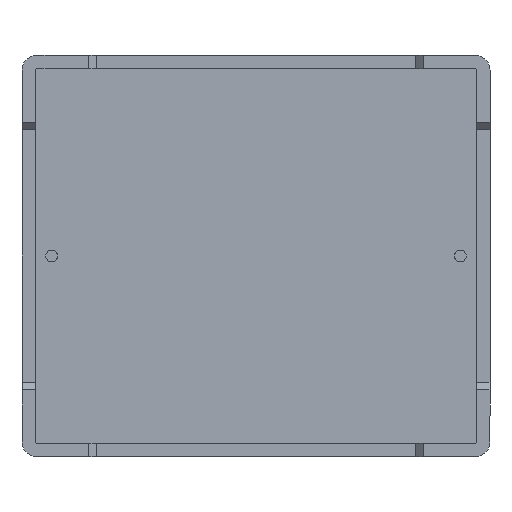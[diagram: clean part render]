
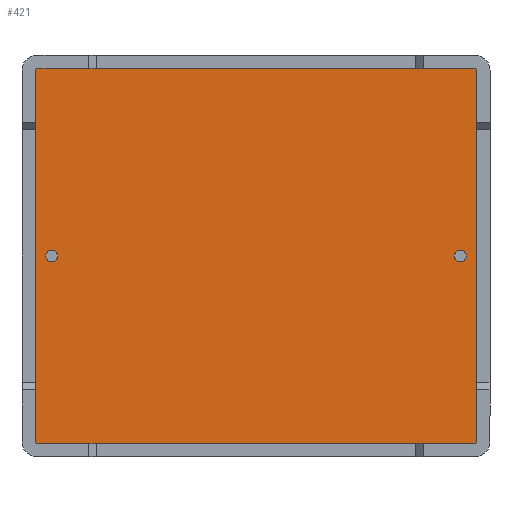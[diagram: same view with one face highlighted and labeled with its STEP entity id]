
A CAD part, front view. The second image highlights one B-rep face of the part: STEP entity #421.
In plain terms, the highlighted planar face has unit normal (0, -1, 0).
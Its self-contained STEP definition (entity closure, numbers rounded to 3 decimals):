
#36 = FACE_OUTER_BOUND ( 'NONE', #2398, .T. ) ;
#50 = FACE_BOUND ( 'NONE', #2296, .T. ) ;
#74 = DIRECTION ( 'NONE',  ( 0., 0., 1. ) ) ;
#128 = EDGE_CURVE ( 'NONE', #3528, #3306, #1279, .T. ) ;
#138 = CARTESIAN_POINT ( 'NONE',  ( 14.85, 1., -12.6 ) ) ;
#143 = FACE_BOUND ( 'NONE', #2304, .T. ) ;
#156 = EDGE_CURVE ( 'NONE', #520, #3269, #1155, .T. ) ;
#187 = EDGE_CURVE ( 'NONE', #1858, #3747, #1050, .T. ) ;
#200 = CIRCLE ( 'NONE', #3951, 0.4 ) ;
#218 = DIRECTION ( 'NONE',  ( 0., 0., -1. ) ) ;
#224 = EDGE_CURVE ( 'NONE', #2219, #3319, #891, .T. ) ;
#237 = EDGE_CURVE ( 'NONE', #1211, #1967, #811, .T. ) ;
#238 = EDGE_CURVE ( 'NONE', #1896, #1774, #945, .T. ) ;
#248 = EDGE_CURVE ( 'NONE', #3319, #1858, #790, .T. ) ;
#255 = EDGE_CURVE ( 'NONE', #3747, #520, #776, .T. ) ;
#266 = EDGE_CURVE ( 'NONE', #3269, #3528, #723, .T. ) ;
#274 = EDGE_CURVE ( 'NONE', #3306, #2219, #663, .T. ) ;
#336 = CARTESIAN_POINT ( 'NONE',  ( 14.75, 1., 12.6 ) ) ;
#421 = ADVANCED_FACE ( 'NONE', ( #143, #50, #36 ), #733, .T. ) ;
#520 = VERTEX_POINT ( 'NONE', #1409 ) ;
#663 = CIRCLE ( 'NONE', #3968, 0.1 ) ;
#684 = DIRECTION ( 'NONE',  ( 0., 0., -1. ) ) ;
#687 = DIRECTION ( 'NONE',  ( 0., -1., 0. ) ) ;
#723 = CIRCLE ( 'NONE', #3784, 0.1 ) ;
#733 = PLANE ( 'NONE',  #1993 ) ;
#745 = DIRECTION ( 'NONE',  ( 0., -1., 0. ) ) ;
#768 = CARTESIAN_POINT ( 'NONE',  ( -13.75, 1., 0.4 ) ) ;
#776 = CIRCLE ( 'NONE', #3597, 0.1 ) ;
#790 = CIRCLE ( 'NONE', #3397, 0.1 ) ;
#811 = CIRCLE ( 'NONE', #3018, 0.4 ) ;
#826 = CARTESIAN_POINT ( 'NONE',  ( 0., 1., 0. ) ) ;
#867 = VECTOR ( 'NONE', #2688, 1000. ) ;
#886 = CARTESIAN_POINT ( 'NONE',  ( -14.85, 1., 12.5 ) ) ;
#891 = LINE ( 'NONE', #2715, #867 ) ;
#945 = CIRCLE ( 'NONE', #3223, 0.4 ) ;
#1027 = VECTOR ( 'NONE', #3161, 1000. ) ;
#1050 = LINE ( 'NONE', #3176, #1027 ) ;
#1073 = DIRECTION ( 'NONE',  ( -1., 0., 0. ) ) ;
#1111 = VECTOR ( 'NONE', #74, 1000. ) ;
#1155 = LINE ( 'NONE', #138, #1111 ) ;
#1183 = CARTESIAN_POINT ( 'NONE',  ( -13.75, 1., -0.4 ) ) ;
#1211 = VERTEX_POINT ( 'NONE', #4108 ) ;
#1213 = CARTESIAN_POINT ( 'NONE',  ( -14.85, 1., -12.5 ) ) ;
#1225 = VECTOR ( 'NONE', #1073, 1000. ) ;
#1279 = LINE ( 'NONE', #1397, #1225 ) ;
#1397 = CARTESIAN_POINT ( 'NONE',  ( 14.85, 1., 12.6 ) ) ;
#1409 = CARTESIAN_POINT ( 'NONE',  ( 14.85, 1., -12.5 ) ) ;
#1508 = EDGE_CURVE ( 'NONE', #1774, #1896, #200, .T. ) ;
#1547 = CARTESIAN_POINT ( 'NONE',  ( -14.75, 1., -12.6 ) ) ;
#1774 = VERTEX_POINT ( 'NONE', #1183 ) ;
#1793 = EDGE_CURVE ( 'NONE', #1967, #1211, #4336, .T. ) ;
#1858 = VERTEX_POINT ( 'NONE', #1547 ) ;
#1896 = VERTEX_POINT ( 'NONE', #768 ) ;
#1959 = CARTESIAN_POINT ( 'NONE',  ( 14.75, 1., -12.6 ) ) ;
#1967 = VERTEX_POINT ( 'NONE', #2896 ) ;
#1993 = AXIS2_PLACEMENT_3D ( 'NONE', #826, #687, #684 ) ;
#2219 = VERTEX_POINT ( 'NONE', #886 ) ;
#2289 = DIRECTION ( 'NONE',  ( 0., 0., -1. ) ) ;
#2296 = EDGE_LOOP ( 'NONE', ( #2643, #2657 ) ) ;
#2304 = EDGE_LOOP ( 'NONE', ( #2632, #2636 ) ) ;
#2308 = DIRECTION ( 'NONE',  ( 0., -1., 0. ) ) ;
#2313 = CARTESIAN_POINT ( 'NONE',  ( -14.75, 1., 12.5 ) ) ;
#2352 = DIRECTION ( 'NONE',  ( 0., 0., -1. ) ) ;
#2381 = DIRECTION ( 'NONE',  ( 0., -1., 0. ) ) ;
#2383 = CARTESIAN_POINT ( 'NONE',  ( 14.75, 1., 12.5 ) ) ;
#2398 = EDGE_LOOP ( 'NONE', ( #2704, #2707, #2749, #2754, #2791, #2809, #2828, #2842 ) ) ;
#2443 = DIRECTION ( 'NONE',  ( 0., 0., -1. ) ) ;
#2449 = DIRECTION ( 'NONE',  ( 0., -1., 0. ) ) ;
#2457 = CARTESIAN_POINT ( 'NONE',  ( 14.75, 1., -12.5 ) ) ;
#2478 = DIRECTION ( 'NONE',  ( 0., 0., -1. ) ) ;
#2484 = DIRECTION ( 'NONE',  ( 0., -1., 0. ) ) ;
#2490 = DIRECTION ( 'NONE',  ( 0., -1., 0. ) ) ;
#2491 = CARTESIAN_POINT ( 'NONE',  ( -14.75, 1., -12.5 ) ) ;
#2526 = DIRECTION ( 'NONE',  ( 0., 0., -1. ) ) ;
#2550 = DIRECTION ( 'NONE',  ( 0., -1., 0. ) ) ;
#2553 = CARTESIAN_POINT ( 'NONE',  ( -13.75, 1., 0. ) ) ;
#2603 = DIRECTION ( 'NONE',  ( 0., 0., -1. ) ) ;
#2606 = DIRECTION ( 'NONE',  ( 0., -1., 0. ) ) ;
#2612 = CARTESIAN_POINT ( 'NONE',  ( 13.75, 1., 0. ) ) ;
#2632 = ORIENTED_EDGE ( 'NONE', *, *, #237, .F. ) ;
#2636 = ORIENTED_EDGE ( 'NONE', *, *, #1793, .F. ) ;
#2643 = ORIENTED_EDGE ( 'NONE', *, *, #238, .F. ) ;
#2657 = ORIENTED_EDGE ( 'NONE', *, *, #1508, .F. ) ;
#2688 = DIRECTION ( 'NONE',  ( 0., 0., -1. ) ) ;
#2704 = ORIENTED_EDGE ( 'NONE', *, *, #224, .T. ) ;
#2707 = ORIENTED_EDGE ( 'NONE', *, *, #248, .T. ) ;
#2715 = CARTESIAN_POINT ( 'NONE',  ( -14.85, 1., 12.6 ) ) ;
#2749 = ORIENTED_EDGE ( 'NONE', *, *, #187, .T. ) ;
#2754 = ORIENTED_EDGE ( 'NONE', *, *, #255, .T. ) ;
#2791 = ORIENTED_EDGE ( 'NONE', *, *, #156, .T. ) ;
#2809 = ORIENTED_EDGE ( 'NONE', *, *, #266, .T. ) ;
#2828 = ORIENTED_EDGE ( 'NONE', *, *, #128, .T. ) ;
#2842 = ORIENTED_EDGE ( 'NONE', *, *, #274, .T. ) ;
#2871 = CARTESIAN_POINT ( 'NONE',  ( 13.75, 1., 0. ) ) ;
#2879 = CARTESIAN_POINT ( 'NONE',  ( -14.75, 1., 12.6 ) ) ;
#2896 = CARTESIAN_POINT ( 'NONE',  ( 13.75, 1., -0.4 ) ) ;
#3018 = AXIS2_PLACEMENT_3D ( 'NONE', #2612, #2606, #2603 ) ;
#3161 = DIRECTION ( 'NONE',  ( 1., 0., 0. ) ) ;
#3165 = DIRECTION ( 'NONE',  ( 0., 0., -1. ) ) ;
#3176 = CARTESIAN_POINT ( 'NONE',  ( -14.85, 1., -12.6 ) ) ;
#3223 = AXIS2_PLACEMENT_3D ( 'NONE', #2553, #2550, #2526 ) ;
#3269 = VERTEX_POINT ( 'NONE', #3999 ) ;
#3306 = VERTEX_POINT ( 'NONE', #2879 ) ;
#3319 = VERTEX_POINT ( 'NONE', #1213 ) ;
#3397 = AXIS2_PLACEMENT_3D ( 'NONE', #2491, #2484, #2478 ) ;
#3528 = VERTEX_POINT ( 'NONE', #336 ) ;
#3597 = AXIS2_PLACEMENT_3D ( 'NONE', #2457, #2449, #2443 ) ;
#3747 = VERTEX_POINT ( 'NONE', #1959 ) ;
#3784 = AXIS2_PLACEMENT_3D ( 'NONE', #2383, #2381, #2352 ) ;
#3951 = AXIS2_PLACEMENT_3D ( 'NONE', #4218, #2490, #218 ) ;
#3968 = AXIS2_PLACEMENT_3D ( 'NONE', #2313, #2308, #2289 ) ;
#3999 = CARTESIAN_POINT ( 'NONE',  ( 14.85, 1., 12.5 ) ) ;
#4108 = CARTESIAN_POINT ( 'NONE',  ( 13.75, 1., 0.4 ) ) ;
#4218 = CARTESIAN_POINT ( 'NONE',  ( -13.75, 1., 0. ) ) ;
#4306 = AXIS2_PLACEMENT_3D ( 'NONE', #2871, #745, #3165 ) ;
#4336 = CIRCLE ( 'NONE', #4306, 0.4 ) ;
